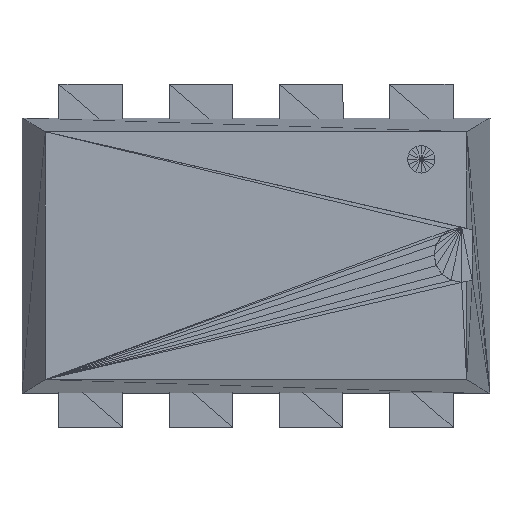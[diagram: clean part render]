
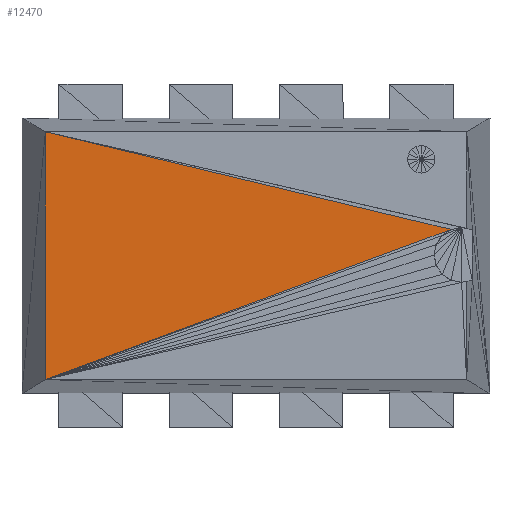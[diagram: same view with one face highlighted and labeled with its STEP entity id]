
A CAD part, top view. The second image highlights one B-rep face of the part: STEP entity #12470.
In plain terms, the highlighted planar face has unit normal (0, 0, 1).
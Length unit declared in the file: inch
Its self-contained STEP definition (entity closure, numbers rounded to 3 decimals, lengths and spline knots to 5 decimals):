
#12026=CARTESIAN_POINT('',(-0.19125,-0.11254,0.19998));
#12027=VERTEX_POINT('',#12026);
#12034=CARTESIAN_POINT('',(-0.19125,0.11246,0.20002));
#12035=VERTEX_POINT('',#12034);
#12036=CARTESIAN_POINT('',(-0.19125,-0.11254,0.19998));
#12037=DIRECTION('',(0.,1.,0.));
#12038=VECTOR('',#12037,0.225);
#12039=LINE('',#12036,#12038);
#12040=EDGE_CURVE('',#12027,#12035,#12039,.T.);
#12438=CARTESIAN_POINT('',(0.17711,0.02377,0.2));
#12439=VERTEX_POINT('',#12438);
#12446=CARTESIAN_POINT('',(-0.19125,-0.11254,0.19998));
#12447=DIRECTION('',(0.938,0.347,0.));
#12448=VECTOR('',#12447,0.39277);
#12449=LINE('',#12446,#12448);
#12450=EDGE_CURVE('',#12027,#12439,#12449,.T.);
#12455=CARTESIAN_POINT('',(-0.19125,-0.11254,0.19998));
#12456=DIRECTION('',(0.,0.,1.));
#12457=DIRECTION('',(1.,0.,0.));
#12458=AXIS2_PLACEMENT_3D('',#12455,#12456,#12457);
#12459=PLANE('',#12458);
#12460=ORIENTED_EDGE('',*,*,#12450,.T.);
#12461=CARTESIAN_POINT('',(0.17711,0.02377,0.2));
#12462=DIRECTION('',(-0.972,0.234,0.));
#12463=VECTOR('',#12462,0.37889);
#12464=LINE('',#12461,#12463);
#12465=EDGE_CURVE('',#12439,#12035,#12464,.T.);
#12466=ORIENTED_EDGE('',*,*,#12465,.T.);
#12467=ORIENTED_EDGE('',*,*,#12040,.F.);
#12468=EDGE_LOOP('',(#12460,#12466,#12467));
#12469=FACE_BOUND('',#12468,.T.);
#12470=ADVANCED_FACE('',(#12469),#12459,.T.);
